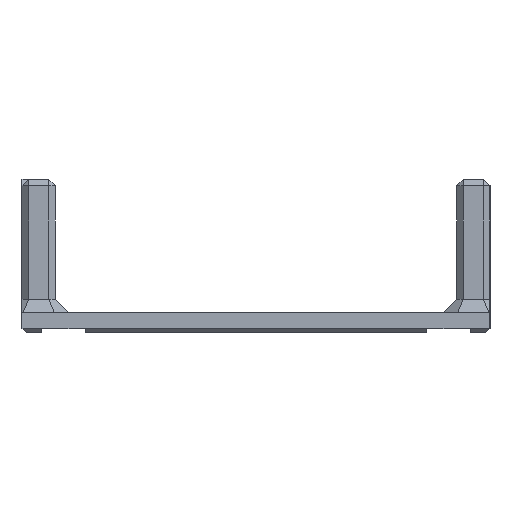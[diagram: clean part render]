
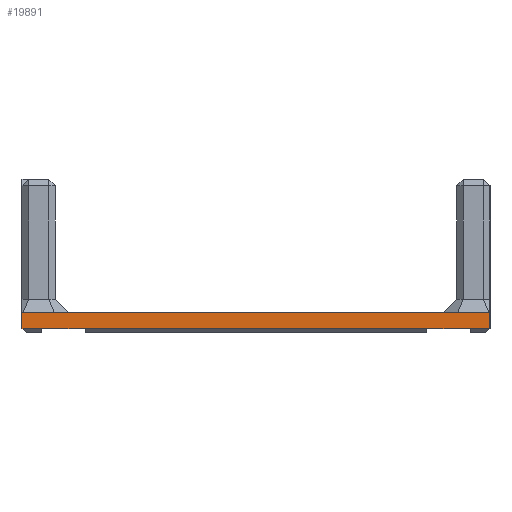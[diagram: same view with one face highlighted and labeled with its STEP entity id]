
A CAD part, left-side view. The second image highlights one B-rep face of the part: STEP entity #19891.
In plain terms, the highlighted planar face has unit normal (-1, 0, 0).
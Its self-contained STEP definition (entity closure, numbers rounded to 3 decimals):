
#18 = CARTESIAN_POINT ( 'NONE',  ( 0., 70., 3. ) ) ;
#426 = VECTOR ( 'NONE', #18670, 1000. ) ;
#549 = ORIENTED_EDGE ( 'NONE', *, *, #6727, .T. ) ;
#1469 = VECTOR ( 'NONE', #11710, 1000. ) ;
#1627 = CARTESIAN_POINT ( 'NONE',  ( 0., 0., 3. ) ) ;
#1741 = VERTEX_POINT ( 'NONE', #12830 ) ;
#3484 = EDGE_CURVE ( 'NONE', #10940, #18421, #16546, .T. ) ;
#3669 = DIRECTION ( 'NONE',  ( -1., 0., 0. ) ) ;
#4078 = CARTESIAN_POINT ( 'NONE',  ( 0., 0., 0.6 ) ) ;
#4651 = VERTEX_POINT ( 'NONE', #17919 ) ;
#4808 = EDGE_CURVE ( 'NONE', #20847, #18885, #7161, .T. ) ;
#5445 = DIRECTION ( 'NONE',  ( 0., -1., 0. ) ) ;
#5476 = ORIENTED_EDGE ( 'NONE', *, *, #3484, .T. ) ;
#5826 = CARTESIAN_POINT ( 'NONE',  ( 0., 70., 3. ) ) ;
#6578 = LINE ( 'NONE', #9915, #9258 ) ;
#6727 = EDGE_CURVE ( 'NONE', #18041, #4651, #16788, .T. ) ;
#6790 = PLANE ( 'NONE',  #8771 ) ;
#6960 = CARTESIAN_POINT ( 'NONE',  ( 0., 0., 3. ) ) ;
#7161 = LINE ( 'NONE', #13710, #15046 ) ;
#7474 = ORIENTED_EDGE ( 'NONE', *, *, #18081, .F. ) ;
#8046 = ORIENTED_EDGE ( 'NONE', *, *, #15866, .F. ) ;
#8202 = DIRECTION ( 'NONE',  ( 0., 0., 1. ) ) ;
#8581 = LINE ( 'NONE', #15339, #426 ) ;
#8690 = VECTOR ( 'NONE', #14308, 1000. ) ;
#8771 = AXIS2_PLACEMENT_3D ( 'NONE', #10118, #3669, #8202 ) ;
#9072 = CARTESIAN_POINT ( 'NONE',  ( 0., 70., 0.6 ) ) ;
#9258 = VECTOR ( 'NONE', #16457, 1000. ) ;
#9463 = DIRECTION ( 'NONE',  ( 0., -1., 0. ) ) ;
#9614 = ORIENTED_EDGE ( 'NONE', *, *, #12714, .F. ) ;
#9915 = CARTESIAN_POINT ( 'NONE',  ( 0., 67.05, 0.6 ) ) ;
#10118 = CARTESIAN_POINT ( 'NONE',  ( 0., 0., 3. ) ) ;
#10940 = VERTEX_POINT ( 'NONE', #6960 ) ;
#11099 = VECTOR ( 'NONE', #12827, 1000. ) ;
#11114 = LINE ( 'NONE', #21100, #11099 ) ;
#11710 = DIRECTION ( 'NONE',  ( 0., 1., 0. ) ) ;
#11853 = EDGE_CURVE ( 'NONE', #1741, #20354, #19664, .T. ) ;
#12117 = ORIENTED_EDGE ( 'NONE', *, *, #4808, .T. ) ;
#12173 = ORIENTED_EDGE ( 'NONE', *, *, #18559, .T. ) ;
#12714 = EDGE_CURVE ( 'NONE', #20847, #4651, #6578, .T. ) ;
#12827 = DIRECTION ( 'NONE',  ( 0., 1., 0. ) ) ;
#12830 = CARTESIAN_POINT ( 'NONE',  ( 0., 2.95, 0.6 ) ) ;
#13710 = CARTESIAN_POINT ( 'NONE',  ( 0., 0., 0.6 ) ) ;
#14308 = DIRECTION ( 'NONE',  ( 0., 0., -1. ) ) ;
#14718 = LINE ( 'NONE', #18, #8690 ) ;
#14954 = FACE_OUTER_BOUND ( 'NONE', #21027, .T. ) ;
#15046 = VECTOR ( 'NONE', #5445, 1000. ) ;
#15278 = CARTESIAN_POINT ( 'NONE',  ( 0., 0., 0.6 ) ) ;
#15339 = CARTESIAN_POINT ( 'NONE',  ( 0., 0., 3. ) ) ;
#15866 = EDGE_CURVE ( 'NONE', #10940, #20354, #8581, .T. ) ;
#16296 = VECTOR ( 'NONE', #16673, 1000. ) ;
#16457 = DIRECTION ( 'NONE',  ( 0., 1., 0. ) ) ;
#16546 = LINE ( 'NONE', #1627, #1469 ) ;
#16673 = DIRECTION ( 'NONE',  ( 0., -1., 0. ) ) ;
#16788 = LINE ( 'NONE', #15278, #16296 ) ;
#16897 = ORIENTED_EDGE ( 'NONE', *, *, #11853, .T. ) ;
#17629 = CARTESIAN_POINT ( 'NONE',  ( 0., 0., 0.6 ) ) ;
#17919 = CARTESIAN_POINT ( 'NONE',  ( 0., 67.05, 0.6 ) ) ;
#18041 = VERTEX_POINT ( 'NONE', #9072 ) ;
#18081 = EDGE_CURVE ( 'NONE', #1741, #18885, #11114, .T. ) ;
#18421 = VERTEX_POINT ( 'NONE', #5826 ) ;
#18559 = EDGE_CURVE ( 'NONE', #18421, #18041, #14718, .T. ) ;
#18670 = DIRECTION ( 'NONE',  ( 0., 0., -1. ) ) ;
#18885 = VERTEX_POINT ( 'NONE', #19727 ) ;
#19089 = CARTESIAN_POINT ( 'NONE',  ( 0., 60.55, 0.6 ) ) ;
#19175 = VECTOR ( 'NONE', #9463, 1000. ) ;
#19664 = LINE ( 'NONE', #17629, #19175 ) ;
#19727 = CARTESIAN_POINT ( 'NONE',  ( 0., 9.45, 0.6 ) ) ;
#19891 = ADVANCED_FACE ( 'NONE', ( #14954 ), #6790, .T. ) ;
#20354 = VERTEX_POINT ( 'NONE', #4078 ) ;
#20847 = VERTEX_POINT ( 'NONE', #19089 ) ;
#21027 = EDGE_LOOP ( 'NONE', ( #12173, #549, #9614, #12117, #7474, #16897, #8046, #5476 ) ) ;
#21100 = CARTESIAN_POINT ( 'NONE',  ( 0., 2.95, 0.6 ) ) ;
